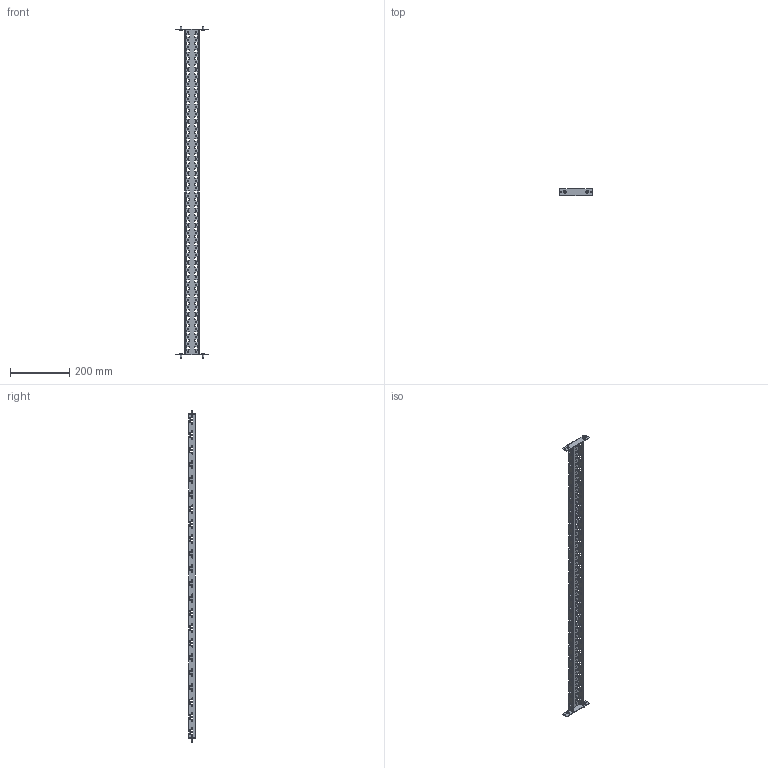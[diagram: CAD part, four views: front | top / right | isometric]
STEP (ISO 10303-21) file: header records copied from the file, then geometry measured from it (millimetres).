
FILE_DESCRIPTION(('Open CASCADE Model'),'2;1');
FILE_NAME('Open CASCADE Shape Model','2025-02-28T17:14:17',('Author'),( 'Open CASCADE'),'Open CASCADE STEP processor 7.8','Open CASCADE 7.8' ,'Unknown');
FILE_SCHEMA(('AUTOMOTIVE_DESIGN { 1 0 10303 214 1 1 1 1 }'));
Length unit declared in the file: millimetre
Products named in the file (3): Compound1; Solid1; Solid2
Assembly tree (5 placements, depth 2):
  Compound1
    Solid1
    Solid2  x4
Bounding box: 111 x 22.5 x 1118 mm (x, y, z)
Volume: 131841.6 mm3; surface area: 193970.8 mm2
Topology: 5 solids, 5 shells, 1550 faces, 4820 edges, 3188 vertices
Faces by surface type: plane 1118, cylinder 384, cone 16, torus 16, bspline 8, sphere 8
Entity records: 52826 total; most frequent: CARTESIAN_POINT 9471, ORIENTED_EDGE 9336, DIRECTION 8386, EDGE_CURVE 4668, LINE 3894, VECTOR 3894, VERTEX_POINT 3107, AXIS2_PLACEMENT_3D 2246
